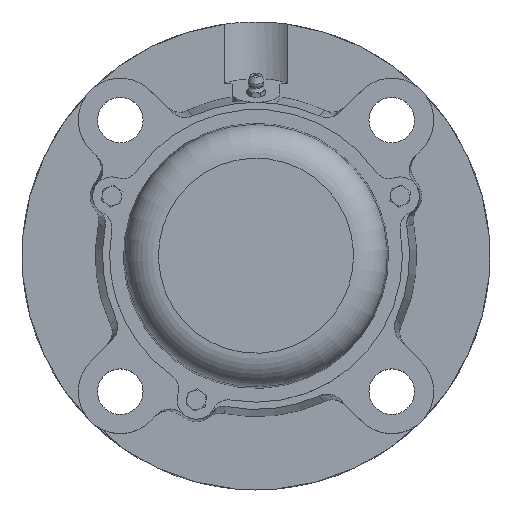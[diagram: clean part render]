
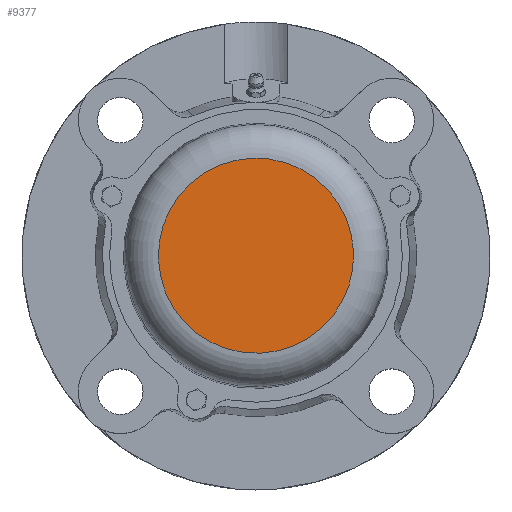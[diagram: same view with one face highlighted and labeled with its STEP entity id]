
A CAD part, top view. The second image highlights one B-rep face of the part: STEP entity #9377.
In plain terms, the highlighted planar face has unit normal (0, 0, 1).
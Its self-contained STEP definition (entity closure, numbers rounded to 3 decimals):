
#9346=CARTESIAN_POINT('',(-40.657,0.0,32.0));
#9347=VERTEX_POINT('',#9346);
#9348=CARTESIAN_POINT('',(0.0,0.0,32.0));
#9349=DIRECTION('',(0.0,0.0,-1.0));
#9350=DIRECTION('',(1.0,0.0,0.0));
#9351=AXIS2_PLACEMENT_3D('',#9348,#9349,#9350);
#9352=CIRCLE('',#9351,40.657);
#9353=EDGE_CURVE('',#9347,#9347,#9352,.T.);
#9369=CARTESIAN_POINT('',(0.0,0.0,32.0));
#9370=DIRECTION('',(0.0,0.0,-1.0));
#9371=DIRECTION('',(-1.0,0.0,0.0));
#9372=AXIS2_PLACEMENT_3D('',#9369,#9370,#9371);
#9373=PLANE('',#9372);
#9374=ORIENTED_EDGE('',*,*,#9353,.F.);
#9375=EDGE_LOOP('',(#9374));
#9376=FACE_OUTER_BOUND('',#9375,.T.);
#9377=ADVANCED_FACE('',(#9376),#9373,.F.);
